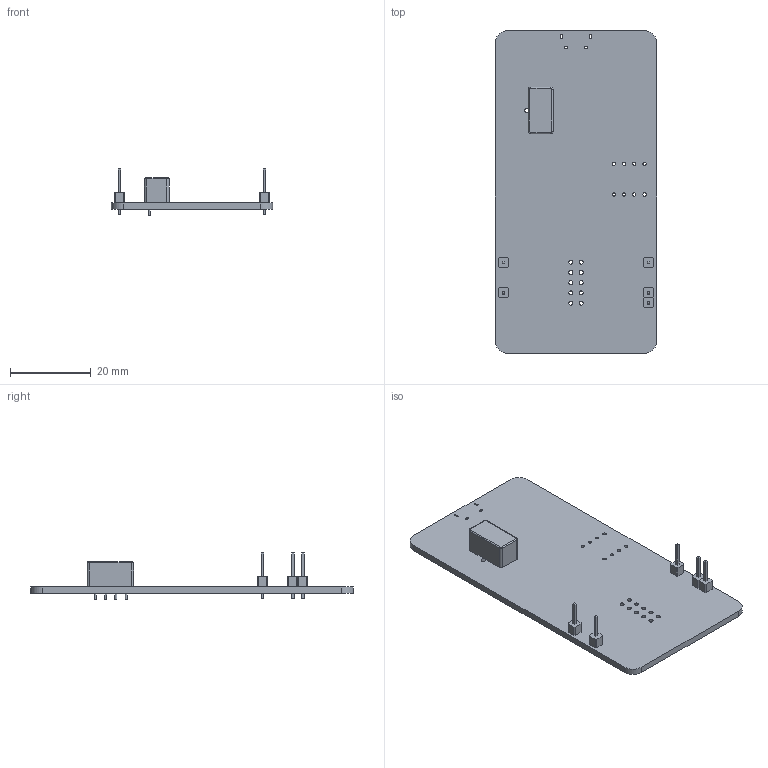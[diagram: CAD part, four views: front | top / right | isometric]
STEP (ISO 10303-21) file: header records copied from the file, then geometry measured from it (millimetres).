
FILE_DESCRIPTION(('KiCad electronic assembly'),'2;1');
FILE_NAME('EspOptoProg.step','2022-08-26T12:07:53',('Pcbnew'),('Kicad'), 'Open CASCADE STEP processor 7.5','KiCad to STEP converter','Unknown' );
FILE_SCHEMA(('AUTOMOTIVE_DESIGN { 1 0 10303 214 1 1 1 1 }'));
Length unit declared in the file: millimetre
Products named in the file (6): EspOptoProg 1; PinHeader_1x01_P2.54mm_Vertical; SOLID; Converter_DCDC_muRata_CRE1xxxxxx3C_THT; EspOptoProg PCB
Assembly tree (9 placements, depth 3):
  EspOptoProg 1
    PinHeader_1x01_P2.54mm_Vertical  x5
      SOLID
    Converter_DCDC_muRata_CRE1xxxxxx3C_THT
      SOLID
    EspOptoProg PCB
Bounding box: 40 x 80 x 11.74 mm (x, y, z)
Volume: 5597.7 mm3; surface area: 7531 mm2
Topology: 7 solids, 7 shells, 227 faces, 545 edges, 346 vertices
Faces by surface type: bspline 170, cylinder 41, plane 16
Full cylindrical faces by diameter (mm): 0.8 x12, 1 x15
Entity records: 7844 total; most frequent: CARTESIAN_POINT 2144, DIRECTION 711, ORIENTED_EDGE 578, PCURVE 578, DEFINITIONAL_REPRESENTATION 578, LINE 331, VECTOR 331, B_SPLINE_CURVE_WITH_KNOTS 320
